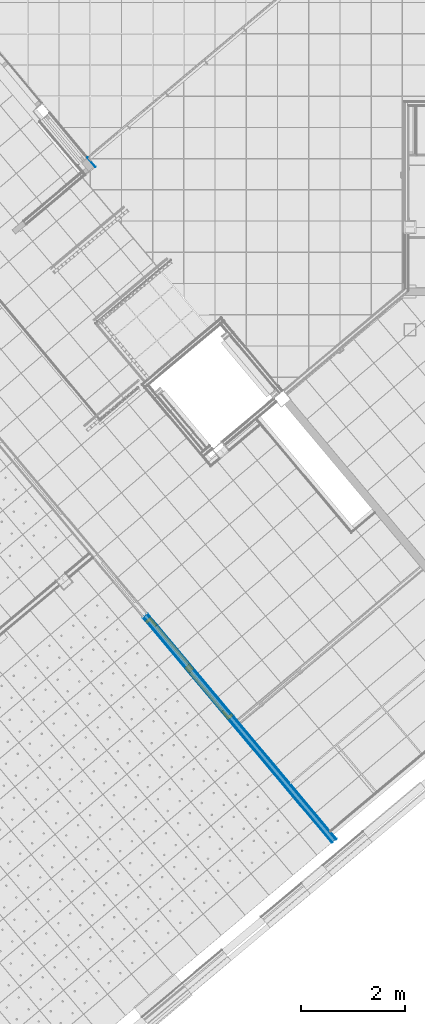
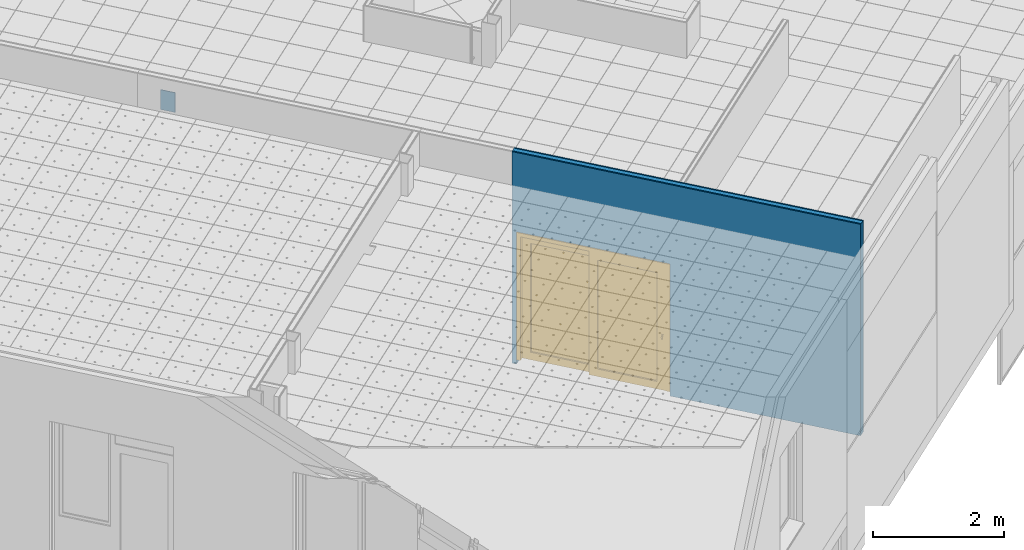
# One storey, part 16 of 321: 5 building element parts, 1 door, 1 wall, 1 opening, 1 element without a shape of its own.
"""IFC2X3 building model written with IfcOpenShell, lengths in millimetres."""

from ifc_helpers import new_model, entity, si_unit, converted_unit, derived_unit, money_unit, direction, frame, origin_with_axes, place, context, subcontext, project, spatial, open_shell, faceted_brep, surface_model, source, transform, mapped, material, type_object, type_shapes, element, fill, aggregate, save


model = new_model("IFC2X3")

# Units and contexts
model_context = context("Model", 3, precision=0.01, world=origin_with_axes(), true_north=direction((0.0, 1.0)))
plan_context = context("Plan", 3, precision=0.01, world=origin_with_axes(), true_north=direction((0.0, 1.0)))
body_context = subcontext(model_context, "Body", "Model", "MODEL_VIEW")
ifc_project = project(units=[si_unit("LENGTHUNIT", "METRE", prefix="MILLI"), si_unit("AREAUNIT", "SQUARE_METRE"), si_unit("VOLUMEUNIT", "CUBIC_METRE"), converted_unit("PLANEANGLEUNIT", "DEGREE", entity("IfcPlaneAngleMeasure", 0.0174532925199), si_unit("PLANEANGLEUNIT", "RADIAN"), dimensions=[0, 0, 0, 0, 0, 0, 0]), money_unit("EUR"), converted_unit("TIMEUNIT", "Year", entity("IfcTimeMeasure", 31556926.0), si_unit("TIMEUNIT", "SECOND"), dimensions=[0, 0, 1, 0, 0, 0, 0]), si_unit("MASSUNIT", "GRAM", prefix="KILO"), si_unit("THERMODYNAMICTEMPERATUREUNIT", "DEGREE_CELSIUS"), si_unit("LUMINOUSINTENSITYUNIT", "LUMEN"), si_unit("ENERGYUNIT", "JOULE", prefix="MEGA"), derived_unit("THERMALCONDUCTANCEUNIT", [(si_unit("POWERUNIT", "WATT"), 1), (si_unit("LENGTHUNIT", "METRE"), -1), (si_unit("THERMODYNAMICTEMPERATUREUNIT", "KELVIN"), -1)]), derived_unit("SPECIFICHEATCAPACITYUNIT", [(si_unit("ENERGYUNIT", "JOULE"), 1), (si_unit("MASSUNIT", "GRAM", prefix="KILO"), -1), (si_unit("THERMODYNAMICTEMPERATUREUNIT", "KELVIN"), -1)]), derived_unit("MASSDENSITYUNIT", [(si_unit("MASSUNIT", "GRAM", prefix="KILO"), 1), (si_unit("VOLUMEUNIT", "CUBIC_METRE"), -1)])], contexts=[model_context, plan_context])

# Site, building, storey
site_placement = place(None, origin_with_axes())
site = spatial("IfcSite", under=ifc_project, at=site_placement, Name="Fortuinstraat Woensdrecht", CompositionType="ELEMENT")
building_placement = place(site_placement, origin_with_axes())
building = spatial("IfcBuilding", under=site, at=building_placement, Name="IKC Fortuna", CompositionType="ELEMENT")
storey_placement = place(building_placement, frame((0.0, 0.0, 4000.0), z_axis=(0.0, 0.0, 1.0), x_axis=(1.0, 0.0, 0.0)))
storey = spatial("IfcBuildingStorey", under=building, at=storey_placement, Name="01 eerste verdieping", CompositionType="ELEMENT", Elevation=4000.0)

# Door
door_style = type_object("IfcDoorStyle", Name="DSn 25", ConstructionType="NOTDEFINED", OperationType="USERDEFINED", ParameterTakesPrecedence=False, Sizeable=False)
shared_shape = source(origin_with_axes(), body_context, "Body", "SurfaceModel", [
    faceted_brep([(1242.5, 0.0, 0.0), (1242.5, -139.0, 0.0), (1175.5, -139.0, 0.0), (1175.5, 0.0, 0.0), (1242.5, 0.0, 2300.0), (1242.5, -139.0, 2300.0), (1175.5, -139.0, 2300.0), (1175.5, 0.0, 2300.0)], [[[0, 1, 2, 3]], [[4, 5, 1, 0]], [[1, 5, 6, 2]], [[3, 2, 6, 7]], [[0, 3, 7, 4]], [[7, 6, 5, 4]]]),
    faceted_brep([(-1242.5, 0.0, 0.0), (-1242.5, -139.0, 0.0), (-1242.5, -139.0, 2300.0), (-1242.5, 0.0, 2300.0), (-1175.5, 0.0, 0.0), (-1175.5, -139.0, 0.0), (-1175.5, -139.0, 2300.0), (-1175.5, 0.0, 2300.0)], [[[0, 1, 2, 3]], [[4, 5, 1, 0]], [[1, 5, 6, 2]], [[3, 2, 6, 7]], [[0, 3, 7, 4]], [[7, 6, 5, 4]]]),
    faceted_brep([(1242.5, 0.0, 2367.0), (1242.5, -139.0, 2367.0), (1242.5, -139.0, 2300.0), (1242.5, 0.0, 2300.0), (-1242.5, 0.0, 2367.0), (-1242.5, -139.0, 2367.0), (-1242.5, -139.0, 2300.0), (-1175.5, -139.0, 2300.0), (1175.5, -139.0, 2300.0), (1175.5, 0.0, 2300.0), (-1175.5, 0.0, 2300.0), (-1242.5, 0.0, 2300.0)], [[[0, 1, 2, 3]], [[4, 5, 1, 0]], [[1, 5, 6, 7, 8, 2]], [[3, 2, 8, 9]], [[0, 3, 9, 10, 11, 4]], [[11, 6, 5, 4]], [[10, 7, 6, 11]], [[9, 8, 7, 10]]]),
    faceted_brep([(-1175.5, 0.0, 139.0), (-1036.5, 0.0, 139.0), (-1036.5, -64.5, 139.0), (-1175.5, -64.5, 139.0), (-1175.5, 0.0, 2161.0), (-1036.5, 0.0, 2161.0), (-1036.5, -64.5, 2161.0), (-1175.5, -64.5, 2161.0)], [[[0, 1, 2, 3]], [[0, 4, 5, 1]], [[1, 5, 6, 2]], [[3, 2, 6, 7]], [[4, 0, 3, 7]], [[5, 4, 7, 6]]]),
    faceted_brep([(69.5, 0.0, 139.0), (69.5, 0.0, 2161.0), (69.5, -64.5, 2161.0), (69.5, -64.5, 139.0), (-69.5, 0.0, 139.0), (-69.5, 0.0, 2161.0), (-69.5, -64.5, 2161.0), (-69.5, -64.5, 139.0)], [[[0, 1, 2, 3]], [[0, 4, 5, 1]], [[1, 5, 6, 2]], [[3, 2, 6, 7]], [[4, 0, 3, 7]], [[5, 4, 7, 6]]]),
    faceted_brep([(-1175.5, 0.0, 0.0), (69.5, 0.0, 0.0), (69.5, -64.5, 0.0), (-1175.5, -64.5, 0.0), (-1175.5, 0.0, 139.0), (-1036.5, 0.0, 139.0), (-69.5, 0.0, 139.0), (69.5, 0.0, 139.0), (69.5, -64.5, 139.0), (-69.5, -64.5, 139.0), (-1036.5, -64.5, 139.0), (-1175.5, -64.5, 139.0)], [[[0, 1, 2, 3]], [[0, 4, 5, 6, 7, 1]], [[1, 7, 8, 2]], [[3, 2, 8, 9, 10, 11]], [[4, 0, 3, 11]], [[5, 4, 11, 10]], [[6, 5, 10, 9]], [[7, 6, 9, 8]]]),
    faceted_brep([(-1175.5, 0.0, 2300.0), (-1175.5, 0.0, 2161.0), (-1175.5, -64.5, 2161.0), (-1175.5, -64.5, 2300.0), (69.5, 0.0, 2300.0), (69.5, 0.0, 2161.0), (-69.5, 0.0, 2161.0), (-1036.5, 0.0, 2161.0), (-1036.5, -64.5, 2161.0), (-69.5, -64.5, 2161.0), (69.5, -64.5, 2161.0), (69.5, -64.5, 2300.0)], [[[0, 1, 2, 3]], [[0, 4, 5, 6, 7, 1]], [[1, 7, 8, 2]], [[3, 2, 8, 9, 10, 11]], [[4, 0, 3, 11]], [[5, 4, 11, 10]], [[6, 5, 10, 9]], [[7, 6, 9, 8]]]),
    surface_model("IfcShellBasedSurfaceModel", [(-1036.5, -26.25, 139.0), (-1036.5, -26.25, 2161.0), (-69.5, -26.25, 2161.0), (-69.5, -26.25, 139.0)], [open_shell([[[0, 1, 2, 3]]])]),
    surface_model("IfcShellBasedSurfaceModel", [(-1036.5, -38.25, 139.0), (-69.5, -38.25, 139.0), (-69.5, -38.25, 2161.0), (-1036.5, -38.25, 2161.0)], [open_shell([[[0, 1, 2, 3]]])]),
    faceted_brep([(1110.5, -134.0, 965.0), (1110.5, -144.0, 965.0), (1110.5, -144.0, 1035.0), (1110.5, -134.0, 1035.0), (1140.5, -134.0, 965.0), (1140.5, -144.0, 965.0), (1140.5, -144.0, 1035.0), (1140.5, -134.0, 1035.0)], [[[0, 1, 2, 3]], [[4, 5, 1, 0]], [[1, 5, 6, 2]], [[3, 2, 6, 7]], [[0, 3, 7, 4]], [[7, 6, 5, 4]]]),
    faceted_brep([(1124.13436775, -144.0, 1006.86549696), (1125.5, -144.0, 1007.0), (1126.86563225, -144.0, 1006.86549696), (1128.17878403, -144.0, 1006.46715673), (1129.38899163, -144.0, 1005.82028729), (1130.44974747, -144.0, 1004.94974747), (1131.32028729, -144.0, 1003.88899163), (1131.96715673, -144.0, 1002.67878403), (1132.36549696, -144.0, 1001.36563225), (1132.5, -144.0, 1000.0), (1132.36549696, -144.0, 998.634367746), (1131.96715673, -144.0, 997.321215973), (1131.32028729, -144.0, 996.111008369), (1130.44974747, -144.0, 995.050252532), (1129.38899163, -144.0, 994.179712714), (1128.17878403, -144.0, 993.532843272), (1126.86563225, -144.0, 993.134503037), (1125.5, -144.0, 993.0), (1124.13436775, -144.0, 993.134503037), (1122.82121597, -144.0, 993.532843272), (1121.61100837, -144.0, 994.179712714), (1120.55025253, -144.0, 995.050252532), (1119.67971271, -144.0, 996.111008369), (1119.03284327, -144.0, 997.321215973), (1118.63450304, -144.0, 998.634367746), (1118.5, -144.0, 1000.0), (1118.63450304, -144.0, 1001.36563225), (1119.03284327, -144.0, 1002.67878403), (1119.67971271, -144.0, 1003.88899163), (1120.55025253, -144.0, 1004.94974747), (1121.61100837, -144.0, 1005.82028729), (1122.82121597, -144.0, 1006.46715673), (1124.13436775, -159.0, 1006.86549696), (1125.5, -159.0, 1007.0), (1126.86563225, -159.0, 1006.86549696), (1128.17878403, -159.0, 1006.46715673), (1129.38899163, -159.0, 1005.82028729), (1130.44974747, -159.0, 1004.94974747), (1131.32028729, -159.0, 1003.88899163), (1131.96715673, -159.0, 1002.67878403), (1132.36549696, -159.0, 1001.36563225), (1132.5, -159.0, 1000.0), (1132.36549696, -159.0, 998.634367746), (1131.96715673, -159.0, 997.321215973), (1131.32028729, -159.0, 996.111008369), (1130.44974747, -159.0, 995.050252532), (1129.38899163, -159.0, 994.179712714), (1128.17878403, -159.0, 993.532843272), (1126.86563225, -159.0, 993.134503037), (1125.5, -159.0, 993.0), (1124.13436775, -159.0, 993.134503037), (1122.82121597, -159.0, 993.532843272), (1121.61100837, -159.0, 994.179712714), (1120.55025253, -159.0, 995.050252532), (1119.67971271, -159.0, 996.111008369), (1119.03284327, -159.0, 997.321215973), (1118.63450304, -159.0, 998.634367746), (1118.5, -159.0, 1000.0), (1118.63450304, -159.0, 1001.36563225), (1119.03284327, -159.0, 1002.67878403), (1119.67971271, -159.0, 1003.88899163), (1120.55025253, -159.0, 1004.94974747), (1121.61100837, -159.0, 1005.82028729), (1122.82121597, -159.0, 1006.46715673)], [[[0, 1, 2, 3, 4, 5, 6, 7, 8, 9, 10, 11, 12, 13, 14, 15, 16, 17, 18, 19, 20, 21, 22, 23, 24, 25, 26, 27, 28, 29, 30, 31]], [[0, 32, 33, 1]], [[1, 33, 34, 2]], [[2, 34, 35, 3]], [[3, 35, 36, 4]], [[4, 36, 37, 5]], [[5, 37, 38, 6]], [[6, 38, 39, 7]], [[7, 39, 40, 8]], [[8, 40, 41, 9]], [[9, 41, 42, 10]], [[10, 42, 43, 11]], [[11, 43, 44, 12]], [[12, 44, 45, 13]], [[13, 45, 46, 14]], [[14, 46, 47, 15]], [[15, 47, 48, 16]], [[16, 48, 49, 17]], [[17, 49, 50, 18]], [[18, 50, 51, 19]], [[19, 51, 52, 20]], [[20, 52, 53, 21]], [[21, 53, 54, 22]], [[22, 54, 55, 23]], [[23, 55, 56, 24]], [[24, 56, 57, 25]], [[25, 57, 58, 26]], [[26, 58, 59, 27]], [[27, 59, 60, 28]], [[28, 60, 61, 29]], [[29, 61, 62, 30]], [[30, 62, 63, 31]], [[31, 63, 32, 0]], [[32, 63, 62, 61, 60, 59, 58, 57, 56, 55, 54, 53, 52, 51, 50, 49, 48, 47, 46, 45, 44, 43, 42, 41, 40, 39, 38, 37, 36, 35, 34, 33]]]),
    faceted_brep([(1115.5, -159.0, 990.0), (1115.5, -169.0, 990.0), (1115.5, -169.0, 1010.0), (1115.5, -159.0, 1010.0), (1135.5, -159.0, 990.0), (1135.5, -169.0, 990.0), (1135.5, -169.0, 1010.0), (1135.5, -159.0, 1010.0)], [[[0, 1, 2, 3]], [[4, 5, 1, 0]], [[1, 5, 6, 2]], [[3, 2, 6, 7]], [[0, 3, 7, 4]], [[7, 6, 5, 4]]]),
    faceted_brep([(1115.5, -169.0, 990.0), (1120.5, -167.0, 965.0), (1130.5, -167.0, 965.0), (1135.5, -169.0, 990.0), (1115.5, -159.0, 990.0), (1120.5, -163.0, 965.0), (1130.5, -163.0, 965.0), (1135.5, -159.0, 990.0)], [[[0, 1, 2, 3]], [[4, 5, 1, 0]], [[1, 5, 6, 2]], [[3, 2, 6, 7]], [[0, 3, 7, 4]], [[7, 6, 5, 4]]]),
    faceted_brep([(1115.5, -169.0, 1010.0), (1135.5, -169.0, 1010.0), (1130.5, -167.0, 1035.0), (1120.5, -167.0, 1035.0), (1115.5, -159.0, 1010.0), (1135.5, -159.0, 1010.0), (1130.5, -163.0, 1035.0), (1120.5, -163.0, 1035.0)], [[[0, 1, 2, 3]], [[0, 4, 5, 1]], [[1, 5, 6, 2]], [[3, 2, 6, 7]], [[4, 0, 3, 7]], [[5, 4, 7, 6]]]),
    faceted_brep([(1110.5, -69.5, 965.0), (1110.5, -69.5, 1035.0), (1110.5, -59.5, 1035.0), (1110.5, -59.5, 965.0), (1140.5, -69.5, 965.0), (1140.5, -69.5, 1035.0), (1140.5, -59.5, 1035.0), (1140.5, -59.5, 965.0)], [[[0, 1, 2, 3]], [[0, 4, 5, 1]], [[1, 5, 6, 2]], [[3, 2, 6, 7]], [[4, 0, 3, 7]], [[5, 4, 7, 6]]]),
    faceted_brep([(1124.13436775, -59.5, 1006.86549696), (1122.82121597, -59.5, 1006.46715673), (1121.61100837, -59.5, 1005.82028729), (1120.55025253, -59.5, 1004.94974747), (1119.67971271, -59.5, 1003.88899163), (1119.03284327, -59.5, 1002.67878403), (1118.63450304, -59.5, 1001.36563225), (1118.5, -59.5, 1000.0), (1118.63450304, -59.5, 998.634367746), (1119.03284327, -59.5, 997.321215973), (1119.67971271, -59.5, 996.111008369), (1120.55025253, -59.5, 995.050252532), (1121.61100837, -59.5, 994.179712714), (1122.82121597, -59.5, 993.532843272), (1124.13436775, -59.5, 993.134503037), (1125.5, -59.5, 993.0), (1126.86563225, -59.5, 993.134503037), (1128.17878403, -59.5, 993.532843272), (1129.38899163, -59.5, 994.179712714), (1130.44974747, -59.5, 995.050252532), (1131.32028729, -59.5, 996.111008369), (1131.96715673, -59.5, 997.321215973), (1132.36549696, -59.5, 998.634367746), (1132.5, -59.5, 1000.0), (1132.36549696, -59.5, 1001.36563225), (1131.96715673, -59.5, 1002.67878403), (1131.32028729, -59.5, 1003.88899163), (1130.44974747, -59.5, 1004.94974747), (1129.38899163, -59.5, 1005.82028729), (1128.17878403, -59.5, 1006.46715673), (1126.86563225, -59.5, 1006.86549696), (1125.5, -59.5, 1007.0), (1124.13436775, -44.5, 1006.86549696), (1122.82121597, -44.5, 1006.46715673), (1121.61100837, -44.5, 1005.82028729), (1120.55025253, -44.5, 1004.94974747), (1119.67971271, -44.5, 1003.88899163), (1119.03284327, -44.5, 1002.67878403), (1118.63450304, -44.5, 1001.36563225), (1118.5, -44.5, 1000.0), (1118.63450304, -44.5, 998.634367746), (1119.03284327, -44.5, 997.321215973), (1119.67971271, -44.5, 996.111008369), (1120.55025253, -44.5, 995.050252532), (1121.61100837, -44.5, 994.179712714), (1122.82121597, -44.5, 993.532843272), (1124.13436775, -44.5, 993.134503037), (1125.5, -44.5, 993.0), (1126.86563225, -44.5, 993.134503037), (1128.17878403, -44.5, 993.532843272), (1129.38899163, -44.5, 994.179712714), (1130.44974747, -44.5, 995.050252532), (1131.32028729, -44.5, 996.111008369), (1131.96715673, -44.5, 997.321215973), (1132.36549696, -44.5, 998.634367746), (1132.5, -44.5, 1000.0), (1132.36549696, -44.5, 1001.36563225), (1131.96715673, -44.5, 1002.67878403), (1131.32028729, -44.5, 1003.88899163), (1130.44974747, -44.5, 1004.94974747), (1129.38899163, -44.5, 1005.82028729), (1128.17878403, -44.5, 1006.46715673), (1126.86563225, -44.5, 1006.86549696), (1125.5, -44.5, 1007.0)], [[[0, 1, 2, 3, 4, 5, 6, 7, 8, 9, 10, 11, 12, 13, 14, 15, 16, 17, 18, 19, 20, 21, 22, 23, 24, 25, 26, 27, 28, 29, 30, 31]], [[1, 0, 32, 33]], [[2, 1, 33, 34]], [[3, 2, 34, 35]], [[4, 3, 35, 36]], [[5, 4, 36, 37]], [[6, 5, 37, 38]], [[7, 6, 38, 39]], [[8, 7, 39, 40]], [[9, 8, 40, 41]], [[10, 9, 41, 42]], [[11, 10, 42, 43]], [[12, 11, 43, 44]], [[13, 12, 44, 45]], [[14, 13, 45, 46]], [[15, 14, 46, 47]], [[16, 15, 47, 48]], [[17, 16, 48, 49]], [[18, 17, 49, 50]], [[19, 18, 50, 51]], [[20, 19, 51, 52]], [[21, 20, 52, 53]], [[22, 21, 53, 54]], [[23, 22, 54, 55]], [[24, 23, 55, 56]], [[25, 24, 56, 57]], [[26, 25, 57, 58]], [[27, 26, 58, 59]], [[28, 27, 59, 60]], [[29, 28, 60, 61]], [[30, 29, 61, 62]], [[31, 30, 62, 63]], [[0, 31, 63, 32]], [[32, 63, 62, 61, 60, 59, 58, 57, 56, 55, 54, 53, 52, 51, 50, 49, 48, 47, 46, 45, 44, 43, 42, 41, 40, 39, 38, 37, 36, 35, 34, 33]]]),
    faceted_brep([(1115.5, -44.5, 990.0), (1115.5, -44.5, 1010.0), (1115.5, -34.5, 1010.0), (1115.5, -34.5, 990.0), (1135.5, -44.5, 990.0), (1135.5, -44.5, 1010.0), (1135.5, -34.5, 1010.0), (1135.5, -34.5, 990.0)], [[[0, 1, 2, 3]], [[0, 4, 5, 1]], [[1, 5, 6, 2]], [[3, 2, 6, 7]], [[4, 0, 3, 7]], [[5, 4, 7, 6]]]),
    faceted_brep([(1115.5, -34.5, 990.0), (1135.5, -34.5, 990.0), (1130.5, -36.5, 965.0), (1120.5, -36.5, 965.0), (1115.5, -44.5, 990.0), (1135.5, -44.5, 990.0), (1130.5, -40.5, 965.0), (1120.5, -40.5, 965.0)], [[[0, 1, 2, 3]], [[0, 4, 5, 1]], [[1, 5, 6, 2]], [[3, 2, 6, 7]], [[4, 0, 3, 7]], [[5, 4, 7, 6]]]),
    faceted_brep([(1115.5, -34.5, 1010.0), (1120.5, -36.5, 1035.0), (1130.5, -36.5, 1035.0), (1135.5, -34.5, 1010.0), (1115.5, -44.5, 1010.0), (1120.5, -40.5, 1035.0), (1130.5, -40.5, 1035.0), (1135.5, -44.5, 1010.0)], [[[0, 1, 2, 3]], [[4, 5, 1, 0]], [[1, 5, 6, 2]], [[3, 2, 6, 7]], [[0, 3, 7, 4]], [[7, 6, 5, 4]]]),
    faceted_brep([(-69.5, -69.5, 139.0), (69.5, -69.5, 139.0), (69.5, -134.0, 139.0), (-69.5, -134.0, 139.0), (-69.5, -69.5, 2161.0), (69.5, -69.5, 2161.0), (69.5, -134.0, 2161.0), (-69.5, -134.0, 2161.0)], [[[0, 1, 2, 3]], [[0, 4, 5, 1]], [[1, 5, 6, 2]], [[3, 2, 6, 7]], [[4, 0, 3, 7]], [[5, 4, 7, 6]]]),
    faceted_brep([(1175.5, -69.5, 139.0), (1175.5, -69.5, 2161.0), (1175.5, -134.0, 2161.0), (1175.5, -134.0, 139.0), (1036.5, -69.5, 139.0), (1036.5, -69.5, 2161.0), (1036.5, -134.0, 2161.0), (1036.5, -134.0, 139.0)], [[[0, 1, 2, 3]], [[0, 4, 5, 1]], [[1, 5, 6, 2]], [[3, 2, 6, 7]], [[4, 0, 3, 7]], [[5, 4, 7, 6]]]),
    faceted_brep([(-69.5, -69.5, 0.0), (1175.5, -69.5, 0.0), (1175.5, -134.0, 0.0), (-69.5, -134.0, 0.0), (-69.5, -69.5, 139.0), (69.5, -69.5, 139.0), (1036.5, -69.5, 139.0), (1175.5, -69.5, 139.0), (1175.5, -134.0, 139.0), (1036.5, -134.0, 139.0), (69.5, -134.0, 139.0), (-69.5, -134.0, 139.0)], [[[0, 1, 2, 3]], [[0, 4, 5, 6, 7, 1]], [[1, 7, 8, 2]], [[3, 2, 8, 9, 10, 11]], [[4, 0, 3, 11]], [[5, 4, 11, 10]], [[6, 5, 10, 9]], [[7, 6, 9, 8]]]),
    faceted_brep([(-69.5, -69.5, 2300.0), (-69.5, -69.5, 2161.0), (-69.5, -134.0, 2161.0), (-69.5, -134.0, 2300.0), (1175.5, -69.5, 2300.0), (1175.5, -69.5, 2161.0), (1036.5, -69.5, 2161.0), (69.5, -69.5, 2161.0), (69.5, -134.0, 2161.0), (1036.5, -134.0, 2161.0), (1175.5, -134.0, 2161.0), (1175.5, -134.0, 2300.0)], [[[0, 1, 2, 3]], [[0, 4, 5, 6, 7, 1]], [[1, 7, 8, 2]], [[3, 2, 8, 9, 10, 11]], [[4, 0, 3, 11]], [[5, 4, 11, 10]], [[6, 5, 10, 9]], [[7, 6, 9, 8]]]),
    surface_model("IfcShellBasedSurfaceModel", [(69.5, -95.75, 139.0), (69.5, -95.75, 2161.0), (1036.5, -95.75, 2161.0), (1036.5, -95.75, 139.0)], [open_shell([[[0, 1, 2, 3]]])]),
    surface_model("IfcShellBasedSurfaceModel", [(69.5, -107.75, 139.0), (1036.5, -107.75, 139.0), (1036.5, -107.75, 2161.0), (69.5, -107.75, 2161.0)], [open_shell([[[0, 1, 2, 3]]])]),
])
type_shapes(door_style, [shared_shape])
wall_2_placement = place(storey_placement, frame((24161.1988928, -8071.96087301, 1360.0), z_axis=(0.0, 0.0, 1.0), x_axis=(-0.642787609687, 0.766044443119, 0.0)))
opening_placement = place(wall_2_placement, frame((4329.37612386, 0.0, 90.0), z_axis=(0.0, 0.0, 1.0), x_axis=(1.0, 0.0, 0.0)))
door_placement = place(opening_placement, frame((1242.5, 0.0, 0.0), z_axis=(0.0, 0.0, 1.0), x_axis=(-1.0, 0.0, 0.0)))
door = element("IfcDoor", 1, at=door_placement, inside=storey, type_object=door_style, Name="32_Deur_h.03", ObjectType="DOOR", OverallHeight=2367.0, OverallWidth=2485.0, context=body_context, shape_type="MappedRepresentation", body=[
    mapped(shared_shape, transform((1242.5, 62.5, 0.0))),
])

# Wall
ifc_material_1 = material(Name="Gipsplaat")
wall_type_1 = type_object("IfcWallType", Name="Gipsplaat 13", PredefinedType="NOTDEFINED")
wall_1_placement = place(storey_placement, frame((19423.2089311, 5069.26213254, 1083.0), z_axis=(0.0, 0.0, 1.0), x_axis=(0.642787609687, -0.766044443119, 0.0)))
element("IfcWall", 2, at=wall_1_placement, inside=storey, type_object=wall_type_1, material=ifc_material_1, Name="22_Wand_koof", context=body_context, shape_type="Brep", body=[
    faceted_brep([(0.0, -12.5, 367.0), (237.337994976, -12.5, 367.0), (237.463693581, 0.0, 367.0), (0.0, 0.0, 367.0), (0.0, -12.5, 0.0), (237.337994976, -12.5, 0.0), (237.463693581, 0.0, 0.0), (0.0, 0.0, 0.0)], [[[0, 1, 2, 3]], [[4, 5, 1, 0]], [[6, 2, 1, 5]], [[3, 2, 6, 7]], [[7, 4, 0, 3]], [[7, 6, 5, 4]]]),
])

# Wall, opening
wall_type_2 = type_object("IfcWallType", Name="MS125 2.75.2A 125", PredefinedType="NOTDEFINED")
wall_2 = element("IfcWall", 3, at=wall_2_placement, inside=storey, type_object=wall_type_2, Name="22_Wand_Binnenwand")
opening = element("IfcOpeningElement", 4, at=opening_placement, cuts=wall_2, Name="32_Deur_h.03", context=body_context, shape_type="Brep", body=[
    faceted_brep([(1242.5, -250.0, 2367.0), (1242.5, -250.0, -90.0), (1242.5, 125.0, -90.0), (1242.5, 125.0, 2367.0), (-1242.5, -250.0, 2367.0), (-1242.5, -250.0, -90.0), (-1242.5, 125.0, -90.0), (-1242.5, 125.0, 2367.0)], [[[0, 1, 2, 3]], [[0, 4, 5, 1]], [[1, 5, 6, 2]], [[3, 2, 6, 7]], [[4, 0, 3, 7]], [[5, 4, 7, 6]]]),
])

fill(opening, door)

# Building element part
building_element_part_1_placement = place(wall_2_placement, origin_with_axes())
building_element_part_1 = element("IfcBuildingElementPart", 5, at=building_element_part_1_placement, material=ifc_material_1, Name="Gipsplaat", context=body_context, shape_type="Brep", body=[
    faceted_brep([(5571.87612386, 50.0, 2457.0), (5571.87612386, 50.0, 0.0), (5649.9701158, 50.0, 0.0), (5649.9701158, 50.0, 3930.0), (0.0, 50.0, 3930.0), (0.0, 50.0, 0.0), (3086.87612386, 50.0, 0.0), (3086.87612386, 50.0, 2457.0), (5571.87612386, 62.5, 2457.0), (5571.87612386, 62.5, 0.0), (5649.9701158, 62.5, 0.0), (5649.9701158, 62.5, 3930.0), (0.0, 62.5, 3930.0), (0.0, 62.5, 0.0), (3086.87612386, 62.5, 0.0), (3086.87612386, 62.5, 2457.0)], [[[0, 1, 2, 3, 4, 5, 6, 7]], [[1, 0, 8, 9]], [[1, 9, 10, 2]], [[2, 10, 11, 3]], [[11, 12, 4, 3]], [[12, 13, 5, 4]], [[14, 6, 5, 13]], [[7, 6, 14, 15]], [[0, 7, 15, 8]], [[15, 14, 13, 12, 11, 10, 9, 8]]]),
])

building_element_part_2_placement = place(wall_2_placement, origin_with_axes())
building_element_part_2 = element("IfcBuildingElementPart", 6, at=building_element_part_2_placement, material=ifc_material_1, Name="Gipsplaat", context=body_context, shape_type="Brep", body=[
    faceted_brep([(5571.87612386, 37.5, 2457.0), (5571.87612386, 37.5, 0.0), (5649.9701158, 37.5, 0.0), (5649.9701158, 37.5, 3930.0), (0.0, 37.5, 3930.0), (0.0, 37.5, 0.0), (3086.87612386, 37.5, 0.0), (3086.87612386, 37.5, 2457.0), (5571.87612386, 50.0, 2457.0), (5571.87612386, 50.0, 0.0), (5649.9701158, 50.0, 0.0), (5649.9701158, 50.0, 3930.0), (0.0, 50.0, 3930.0), (0.0, 50.0, 0.0), (3086.87612386, 50.0, 0.0), (3086.87612386, 50.0, 2457.0)], [[[0, 1, 2, 3, 4, 5, 6, 7]], [[1, 0, 8, 9]], [[1, 9, 10, 2]], [[2, 10, 11, 3]], [[11, 12, 4, 3]], [[12, 13, 5, 4]], [[14, 6, 5, 13]], [[7, 6, 14, 15]], [[0, 7, 15, 8]], [[15, 14, 13, 12, 11, 10, 9, 8]]]),
])

ifc_material_2 = material(Name="Isolatie - Steenwol LSW")
building_element_part_3_placement = place(wall_2_placement, origin_with_axes())
building_element_part_3 = element("IfcBuildingElementPart", 7, at=building_element_part_3_placement, material=ifc_material_2, Name="Isolatie - Steenwol LSW", context=body_context, shape_type="Brep", body=[
    faceted_brep([(5571.87612386, -37.5, 2457.0), (5571.87612386, -37.5, 0.0), (5649.9701158, -37.5, 0.0), (5649.9701158, -37.5, 3930.0), (0.0, -37.5, 3930.0), (0.0, -37.5, 0.0), (3086.87612386, -37.5, 0.0), (3086.87612386, -37.5, 2457.0), (5571.87612386, 37.5, 2457.0), (5571.87612386, 37.5, 0.0), (5649.9701158, 37.5, 0.0), (5649.9701158, 37.5, 3930.0), (0.0, 37.5, 3930.0), (0.0, 37.5, 0.0), (3086.87612386, 37.5, 0.0), (3086.87612386, 37.5, 2457.0)], [[[0, 1, 2, 3, 4, 5, 6, 7]], [[1, 0, 8, 9]], [[1, 9, 10, 2]], [[2, 10, 11, 3]], [[11, 12, 4, 3]], [[12, 13, 5, 4]], [[14, 6, 5, 13]], [[7, 6, 14, 15]], [[0, 7, 15, 8]], [[15, 14, 13, 12, 11, 10, 9, 8]]]),
])

building_element_part_4_placement = place(wall_2_placement, origin_with_axes())
building_element_part_4 = element("IfcBuildingElementPart", 8, at=building_element_part_4_placement, material=ifc_material_1, Name="Gipsplaat", context=body_context, shape_type="Brep", body=[
    faceted_brep([(5571.87612386, -50.0, 2457.0), (5571.87612386, -50.0, 0.0), (5649.9701158, -50.0, 0.0), (5649.9701158, -50.0, 3930.0), (0.0, -50.0, 3930.0), (0.0, -50.0, 0.0), (3086.87612386, -50.0, 0.0), (3086.87612386, -50.0, 2457.0), (5571.87612386, -37.5, 2457.0), (5571.87612386, -37.5, 0.0), (5649.9701158, -37.5, 0.0), (5649.9701158, -37.5, 3930.0), (0.0, -37.5, 3930.0), (0.0, -37.5, 0.0), (3086.87612386, -37.5, 0.0), (3086.87612386, -37.5, 2457.0)], [[[0, 1, 2, 3, 4, 5, 6, 7]], [[1, 0, 8, 9]], [[1, 9, 10, 2]], [[2, 10, 11, 3]], [[11, 12, 4, 3]], [[12, 13, 5, 4]], [[14, 6, 5, 13]], [[7, 6, 14, 15]], [[0, 7, 15, 8]], [[15, 14, 13, 12, 11, 10, 9, 8]]]),
])

building_element_part_5_placement = place(wall_2_placement, origin_with_axes())
building_element_part_5 = element("IfcBuildingElementPart", 9, at=building_element_part_5_placement, material=ifc_material_1, Name="Gipsplaat", context=body_context, shape_type="Brep", body=[
    faceted_brep([(5571.87612386, -62.5, 2457.0), (5571.87612386, -62.5, 0.0), (5649.9701158, -62.5, 0.0), (5649.9701158, -62.5, 3930.0), (0.0, -62.5, 3930.0), (0.0, -62.5, 0.0), (3086.87612386, -62.5, 0.0), (3086.87612386, -62.5, 2457.0), (5571.87612386, -50.0, 2457.0), (5571.87612386, -50.0, 0.0), (5649.9701158, -50.0, 0.0), (5649.9701158, -50.0, 3930.0), (0.0, -50.0, 3930.0), (0.0, -50.0, 0.0), (3086.87612386, -50.0, 0.0), (3086.87612386, -50.0, 2457.0)], [[[0, 1, 2, 3, 4, 5, 6, 7]], [[1, 0, 8, 9]], [[1, 9, 10, 2]], [[2, 10, 11, 3]], [[11, 12, 4, 3]], [[12, 13, 5, 4]], [[14, 6, 5, 13]], [[7, 6, 14, 15]], [[0, 7, 15, 8]], [[15, 14, 13, 12, 11, 10, 9, 8]]]),
])

aggregate(wall_2, [building_element_part_1, building_element_part_2, building_element_part_3, building_element_part_4, building_element_part_5])

save(model, "model.ifc")
